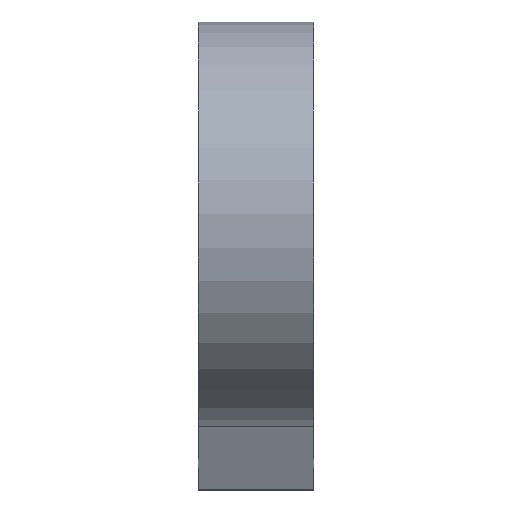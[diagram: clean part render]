
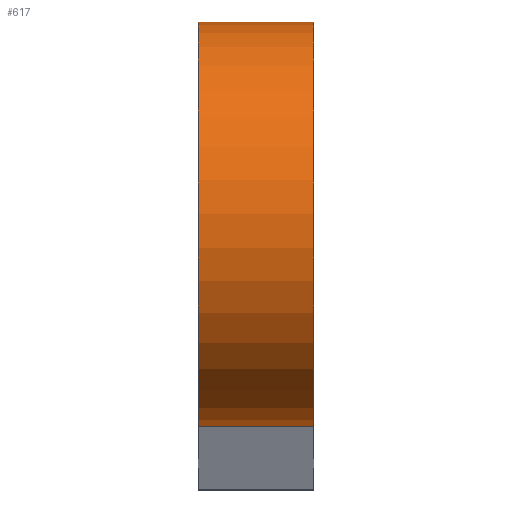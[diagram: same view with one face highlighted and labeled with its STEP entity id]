
A CAD part, left-side view. The second image highlights one B-rep face of the part: STEP entity #617.
In plain terms, the highlighted cylindrical face has radius 17.5 mm (diameter 35 mm), a partial arc.
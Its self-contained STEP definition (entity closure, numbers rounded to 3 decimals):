
#44 = CYLINDRICAL_SURFACE('',#45,17.5);
#45 = AXIS2_PLACEMENT_3D('',#46,#47,#48);
#46 = CARTESIAN_POINT('',(93.,-23.,142.479));
#47 = DIRECTION('',(0.,1.,0.));
#48 = DIRECTION('',(0.,-0.,1.));
#142 = VERTEX_POINT('',#143);
#143 = CARTESIAN_POINT('',(93.,-13.,159.979));
#158 = PLANE('',#159);
#159 = AXIS2_PLACEMENT_3D('',#160,#161,#162);
#160 = CARTESIAN_POINT('',(93.,-13.,142.479));
#161 = DIRECTION('',(0.,1.,0.));
#162 = DIRECTION('',(0.,-0.,1.));
#170 = EDGE_CURVE('',#171,#142,#173,.T.);
#171 = VERTEX_POINT('',#172);
#172 = CARTESIAN_POINT('',(93.,-23.,159.979));
#173 = SURFACE_CURVE('',#174,(#178,#185),.PCURVE_S1.);
#174 = LINE('',#175,#176);
#175 = CARTESIAN_POINT('',(93.,-23.,159.979));
#176 = VECTOR('',#177,1.);
#177 = DIRECTION('',(0.,1.,0.));
#178 = PCURVE('',#44,#179);
#179 = DEFINITIONAL_REPRESENTATION('',(#180),#184);
#180 = LINE('',#181,#182);
#181 = CARTESIAN_POINT('',(0.,-0.));
#182 = VECTOR('',#183,1.);
#183 = DIRECTION('',(0.,1.));
#184 = ( GEOMETRIC_REPRESENTATION_CONTEXT(2) 
PARAMETRIC_REPRESENTATION_CONTEXT() REPRESENTATION_CONTEXT('2D SPACE',''
  ) );
#185 = PCURVE('',#186,#191);
#186 = CYLINDRICAL_SURFACE('',#187,17.5);
#187 = AXIS2_PLACEMENT_3D('',#188,#189,#190);
#188 = CARTESIAN_POINT('',(93.,-23.,142.479));
#189 = DIRECTION('',(0.,1.,0.));
#190 = DIRECTION('',(0.,-0.,1.));
#191 = DEFINITIONAL_REPRESENTATION('',(#192),#196);
#192 = LINE('',#193,#194);
#193 = CARTESIAN_POINT('',(6.283,-0.));
#194 = VECTOR('',#195,1.);
#195 = DIRECTION('',(0.,1.));
#196 = ( GEOMETRIC_REPRESENTATION_CONTEXT(2) 
PARAMETRIC_REPRESENTATION_CONTEXT() REPRESENTATION_CONTEXT('2D SPACE',''
  ) );
#213 = PLANE('',#214);
#214 = AXIS2_PLACEMENT_3D('',#215,#216,#217);
#215 = CARTESIAN_POINT('',(93.,-23.,142.479));
#216 = DIRECTION('',(0.,1.,0.));
#217 = DIRECTION('',(0.,-0.,1.));
#302 = PLANE('',#303);
#303 = AXIS2_PLACEMENT_3D('',#304,#305,#306);
#304 = CARTESIAN_POINT('',(139.656,-13.,119.695));
#305 = DIRECTION('',(-0.11,-0.,-0.994));
#306 = DIRECTION('',(-0.994,0.,0.11));
#318 = VERTEX_POINT('',#319);
#319 = CARTESIAN_POINT('',(91.07,-13.,125.086));
#423 = VERTEX_POINT('',#424);
#424 = CARTESIAN_POINT('',(91.07,-23.,125.086));
#527 = EDGE_CURVE('',#318,#142,#528,.T.);
#528 = SURFACE_CURVE('',#529,(#534,#541),.PCURVE_S1.);
#529 = CIRCLE('',#530,17.5);
#530 = AXIS2_PLACEMENT_3D('',#531,#532,#533);
#531 = CARTESIAN_POINT('',(93.,-13.,142.479));
#532 = DIRECTION('',(0.,1.,0.));
#533 = DIRECTION('',(0.,-0.,1.));
#534 = PCURVE('',#158,#535);
#535 = DEFINITIONAL_REPRESENTATION('',(#536),#540);
#536 = CIRCLE('',#537,17.5);
#537 = AXIS2_PLACEMENT_2D('',#538,#539);
#538 = CARTESIAN_POINT('',(0.,0.));
#539 = DIRECTION('',(1.,0.));
#540 = ( GEOMETRIC_REPRESENTATION_CONTEXT(2) 
PARAMETRIC_REPRESENTATION_CONTEXT() REPRESENTATION_CONTEXT('2D SPACE',''
  ) );
#541 = PCURVE('',#186,#542);
#542 = DEFINITIONAL_REPRESENTATION('',(#543),#547);
#543 = LINE('',#544,#545);
#544 = CARTESIAN_POINT('',(0.,10.));
#545 = VECTOR('',#546,1.);
#546 = DIRECTION('',(1.,0.));
#547 = ( GEOMETRIC_REPRESENTATION_CONTEXT(2) 
PARAMETRIC_REPRESENTATION_CONTEXT() REPRESENTATION_CONTEXT('2D SPACE',''
  ) );
#574 = EDGE_CURVE('',#423,#171,#575,.T.);
#575 = SURFACE_CURVE('',#576,(#581,#588),.PCURVE_S1.);
#576 = CIRCLE('',#577,17.5);
#577 = AXIS2_PLACEMENT_3D('',#578,#579,#580);
#578 = CARTESIAN_POINT('',(93.,-23.,142.479));
#579 = DIRECTION('',(0.,1.,0.));
#580 = DIRECTION('',(0.,-0.,1.));
#581 = PCURVE('',#213,#582);
#582 = DEFINITIONAL_REPRESENTATION('',(#583),#587);
#583 = CIRCLE('',#584,17.5);
#584 = AXIS2_PLACEMENT_2D('',#585,#586);
#585 = CARTESIAN_POINT('',(0.,0.));
#586 = DIRECTION('',(1.,0.));
#587 = ( GEOMETRIC_REPRESENTATION_CONTEXT(2) 
PARAMETRIC_REPRESENTATION_CONTEXT() REPRESENTATION_CONTEXT('2D SPACE',''
  ) );
#588 = PCURVE('',#186,#589);
#589 = DEFINITIONAL_REPRESENTATION('',(#590),#594);
#590 = LINE('',#591,#592);
#591 = CARTESIAN_POINT('',(0.,0.));
#592 = VECTOR('',#593,1.);
#593 = DIRECTION('',(1.,0.));
#594 = ( GEOMETRIC_REPRESENTATION_CONTEXT(2) 
PARAMETRIC_REPRESENTATION_CONTEXT() REPRESENTATION_CONTEXT('2D SPACE',''
  ) );
#617 = ADVANCED_FACE('',(#618),#186,.T.);
#618 = FACE_BOUND('',#619,.T.);
#619 = EDGE_LOOP('',(#620,#621,#622,#643));
#620 = ORIENTED_EDGE('',*,*,#170,.T.);
#621 = ORIENTED_EDGE('',*,*,#527,.F.);
#622 = ORIENTED_EDGE('',*,*,#623,.T.);
#623 = EDGE_CURVE('',#318,#423,#624,.T.);
#624 = SURFACE_CURVE('',#625,(#629,#636),.PCURVE_S1.);
#625 = LINE('',#626,#627);
#626 = CARTESIAN_POINT('',(91.07,-13.,125.086));
#627 = VECTOR('',#628,1.);
#628 = DIRECTION('',(0.,-1.,0.));
#629 = PCURVE('',#186,#630);
#630 = DEFINITIONAL_REPRESENTATION('',(#631),#635);
#631 = LINE('',#632,#633);
#632 = CARTESIAN_POINT('',(3.252,10.));
#633 = VECTOR('',#634,1.);
#634 = DIRECTION('',(0.,-1.));
#635 = ( GEOMETRIC_REPRESENTATION_CONTEXT(2) 
PARAMETRIC_REPRESENTATION_CONTEXT() REPRESENTATION_CONTEXT('2D SPACE',''
  ) );
#636 = PCURVE('',#302,#637);
#637 = DEFINITIONAL_REPRESENTATION('',(#638),#642);
#638 = LINE('',#639,#640);
#639 = CARTESIAN_POINT('',(48.884,0.));
#640 = VECTOR('',#641,1.);
#641 = DIRECTION('',(0.,-1.));
#642 = ( GEOMETRIC_REPRESENTATION_CONTEXT(2) 
PARAMETRIC_REPRESENTATION_CONTEXT() REPRESENTATION_CONTEXT('2D SPACE',''
  ) );
#643 = ORIENTED_EDGE('',*,*,#574,.T.);
